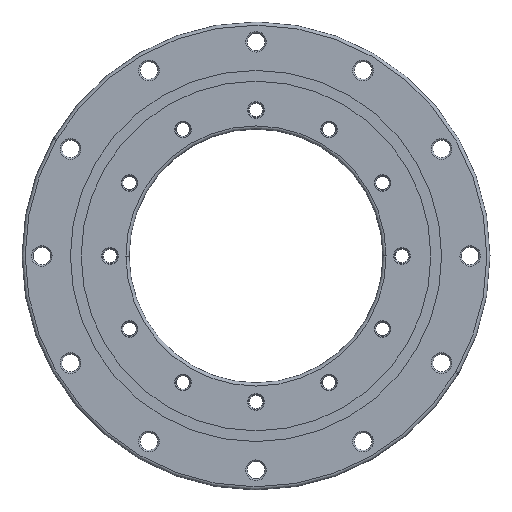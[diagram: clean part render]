
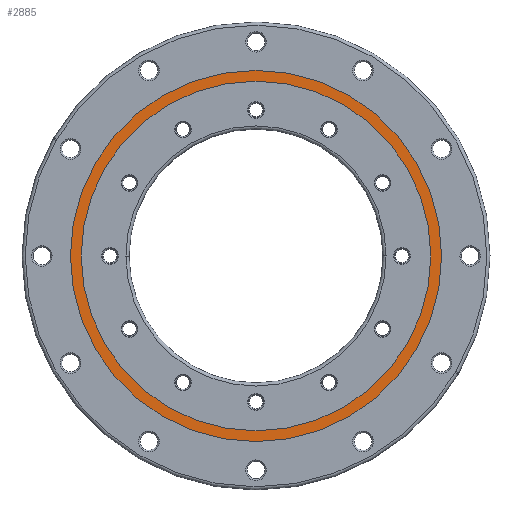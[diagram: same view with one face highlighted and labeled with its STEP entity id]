
A CAD part, front view. The second image highlights one B-rep face of the part: STEP entity #2885.
In plain terms, the highlighted planar face has unit normal (0, -1, 0).
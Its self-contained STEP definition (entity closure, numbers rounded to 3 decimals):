
#2577=EDGE_CURVE('',#4669,#6553,#7060,.T.);
#2885=ADVANCED_FACE('',(#7399,#7400),#7401,.F.);
#3647=EDGE_CURVE('',#6047,#6401,#8258,.T.);
#3993=EDGE_CURVE('',#6553,#4669,#8651,.T.);
#4669=VERTEX_POINT('',#9404);
#4979=EDGE_CURVE('',#6401,#6047,#9757,.T.);
#6047=VERTEX_POINT('',#10963);
#6401=VERTEX_POINT('',#11362);
#6553=VERTEX_POINT('',#11528);
#7060=CIRCLE('',#12163,117.0);
#7399=FACE_OUTER_BOUND('',#12590,.T.);
#7400=FACE_BOUND('',#12591,.T.);
#7401=PLANE('',#12592);
#8258=CIRCLE('',#13691,110.2);
#8651=CIRCLE('',#14213,117.0);
#9404=CARTESIAN_POINT('',(117.0,0.0,0.));
#9757=CIRCLE('',#15669,110.2);
#10963=CARTESIAN_POINT('',(-110.2,0.0,0.0));
#11362=CARTESIAN_POINT('',(110.2,0.0,0.));
#11528=CARTESIAN_POINT('',(-117.0,0.0,0.));
#12163=AXIS2_PLACEMENT_3D('',#18448,#18449,#18450);
#12590=EDGE_LOOP('',(#18878,#18879));
#12591=EDGE_LOOP('',(#18880,#18881));
#12592=AXIS2_PLACEMENT_3D('',#18882,#18883,#18884);
#13691=AXIS2_PLACEMENT_3D('',#19986,#19987,#19988);
#14213=AXIS2_PLACEMENT_3D('',#20507,#20508,#20509);
#15669=AXIS2_PLACEMENT_3D('',#21994,#21995,#21996);
#18448=CARTESIAN_POINT('',(0.0,0.0,0.0));
#18449=DIRECTION('',(-0.0,1.0,0.0));
#18450=DIRECTION('',(1.0,0.0,0.0));
#18878=ORIENTED_EDGE('',*,*,#3993,.F.);
#18879=ORIENTED_EDGE('',*,*,#2577,.F.);
#18880=ORIENTED_EDGE('',*,*,#3647,.F.);
#18881=ORIENTED_EDGE('',*,*,#4979,.F.);
#18882=CARTESIAN_POINT('',(0.0,0.0,0.0));
#18883=DIRECTION('',(0.0,1.0,0.0));
#18884=DIRECTION('',(1.0,0.0,-0.0));
#19986=CARTESIAN_POINT('',(0.0,0.0,0.0));
#19987=DIRECTION('',(0.0,-1.0,0.0));
#19988=DIRECTION('',(-1.0,0.0,0.0));
#20507=CARTESIAN_POINT('',(0.0,0.0,0.0));
#20508=DIRECTION('',(0.0,1.0,0.0));
#20509=DIRECTION('',(-1.0,0.0,0.0));
#21994=CARTESIAN_POINT('',(0.0,0.0,0.0));
#21995=DIRECTION('',(0.0,-1.0,0.0));
#21996=DIRECTION('',(1.0,0.0,0.0));
